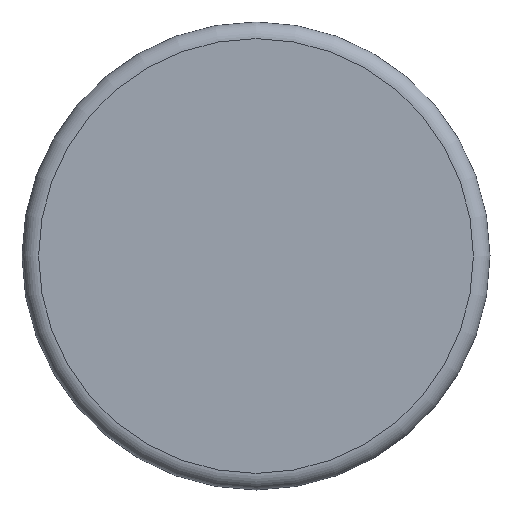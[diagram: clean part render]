
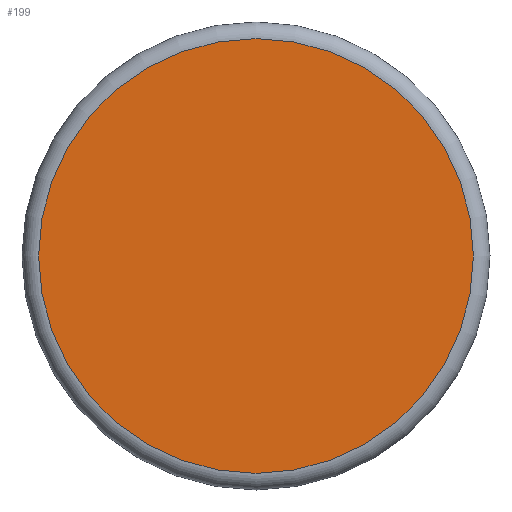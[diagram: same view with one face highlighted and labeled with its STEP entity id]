
A CAD part, front view. The second image highlights one B-rep face of the part: STEP entity #199.
In plain terms, the highlighted planar face has unit normal (0, -1, 0).
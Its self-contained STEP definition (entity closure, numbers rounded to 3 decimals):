
#26=PLANE('',#230);
#52=FACE_OUTER_BOUND('',#74,.T.);
#74=EDGE_LOOP('',(#164));
#108=CIRCLE('',#231,9.15);
#126=VERTEX_POINT('',#349);
#144=EDGE_CURVE('',#126,#126,#108,.T.);
#164=ORIENTED_EDGE('',*,*,#144,.F.);
#199=ADVANCED_FACE('',(#52),#26,.T.);
#230=AXIS2_PLACEMENT_3D('',#348,#276,#277);
#231=AXIS2_PLACEMENT_3D('',#350,#278,#279);
#276=DIRECTION('center_axis',(0.,-1.,0.));
#277=DIRECTION('ref_axis',(0.,0.,-1.));
#278=DIRECTION('center_axis',(0.,1.,0.));
#279=DIRECTION('ref_axis',(-1.,0.,0.));
#348=CARTESIAN_POINT('Origin',(-4.575,0.,0.));
#349=CARTESIAN_POINT('',(-9.15,0.,0.));
#350=CARTESIAN_POINT('Origin',(0.,0.,0.));
